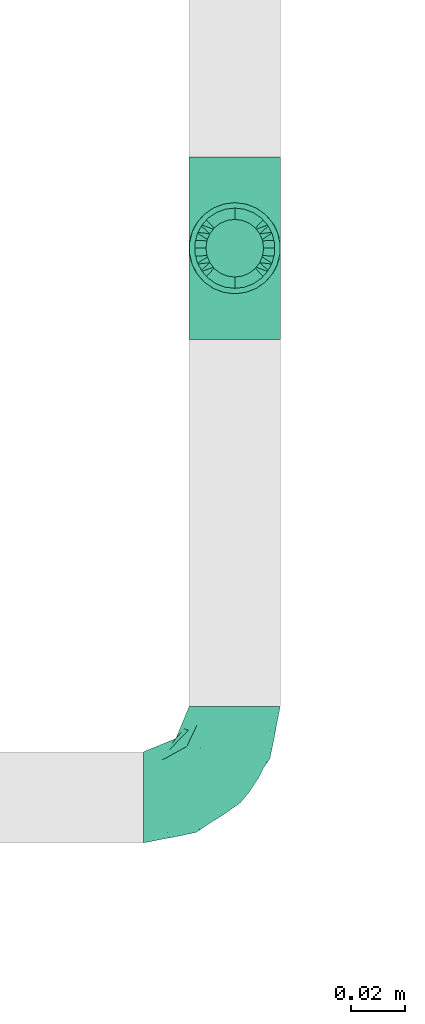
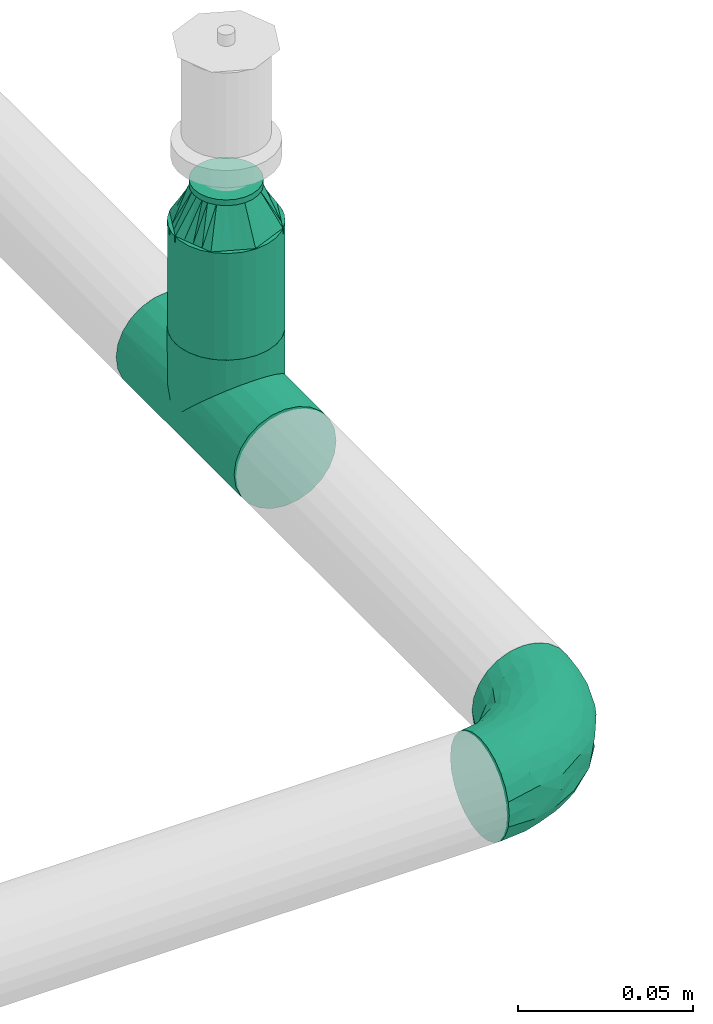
# One storey, part 12 of 31: 3 flow fittings, 1 flow segment.
"""IFC2X3 building model written with IfcOpenShell, lengths in millimetres."""

from ifc_helpers import new_model, entity, si_unit, converted_unit, derived_unit, direction, frame, origin_with_axes, origin_2d_with_axis, place, context, subcontext, project, spatial, hollow_circle, extrude, open_shell, surface_model, source, transform, mapped, type_object, element, save


model = new_model("IFC2X3")

# Units and contexts
model_context = context("Model", 3, precision=0.01, world=frame((0.0, 4.29681676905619e-09, 0.0)), true_north=direction((4.01073788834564e-13, 1.0)))
plan_context = context("Plan", 3, precision=0.01, world=frame((0.0, 4.29681676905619e-09, 0.0)), true_north=direction((4.01073788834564e-13, 1.0)))
body_context = subcontext(model_context, "Body", "Model", "MODEL_VIEW")
ifc_project = project(units=[converted_unit("PLANEANGLEUNIT", "DEGREE", entity("IfcPositiveLengthMeasure", 0.0174532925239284), si_unit("PLANEANGLEUNIT", "RADIAN"), dimensions=[0, 0, 0, 0, 0, 0, 0]), si_unit("AREAUNIT", "SQUARE_METRE"), si_unit("LENGTHUNIT", "METRE", prefix="MILLI"), si_unit("MASSUNIT", "GRAM", prefix="KILO"), si_unit("POWERUNIT", "WATT"), si_unit("PRESSUREUNIT", "PASCAL", prefix="KILO"), si_unit("FORCEUNIT", "NEWTON", prefix="KILO"), si_unit("ELECTRICVOLTAGEUNIT", "VOLT"), si_unit("ELECTRICCURRENTUNIT", "AMPERE"), si_unit("THERMODYNAMICTEMPERATUREUNIT", "DEGREE_CELSIUS"), si_unit("TIMEUNIT", "SECOND"), si_unit("VOLUMEUNIT", "CUBIC_METRE"), derived_unit("LINEARVELOCITYUNIT", [(si_unit("LENGTHUNIT", "METRE"), 1), (si_unit("TIMEUNIT", "SECOND"), -1)]), derived_unit("VOLUMETRICFLOWRATEUNIT", [(si_unit("VOLUMEUNIT", "CUBIC_METRE"), 1), (si_unit("TIMEUNIT", "SECOND"), -1)]), derived_unit("THERMALTRANSMITTANCEUNIT", [(si_unit("POWERUNIT", "WATT"), 1), (si_unit("THERMODYNAMICTEMPERATUREUNIT", "KELVIN"), -1), (si_unit("AREAUNIT", "SQUARE_METRE"), -1)]), derived_unit("SOUNDPRESSUREUNIT", [(si_unit("PRESSUREUNIT", "PASCAL"), 1)])], contexts=[model_context, plan_context])

# Site, building, storey
site_placement = place(None, frame((0.0, -4.29681676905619e-09, 0.0), z_axis=(0.0, 0.0, 1.0), x_axis=(1.0, 0.0, 0.0)))
site = spatial("IfcSite", under=ifc_project, at=site_placement, CompositionType="ELEMENT")
building_placement = place(site_placement, frame((0.0, 4.29681676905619e-09, 0.0), z_axis=(0.0, 0.0, 1.0), x_axis=(1.0, 0.0, 0.0)))
building = spatial("IfcBuilding", under=site, at=building_placement, Name="mc-building", CompositionType="ELEMENT")
storey_placement = place(building_placement, frame((0.0, 0.0, 200300.0), z_axis=(0.0, 0.0, 1.0), x_axis=(1.0, 0.0, 0.0)))
storey = spatial("IfcBuildingStorey", under=building, at=storey_placement, Name="Nivå C", CompositionType="ELEMENT", Elevation=200300.0)

# Flow fittings
pipe_fitting_type_1 = type_object("IfcPipeFittingType", Name="magi_pipe_fe_tee_centric_90_NOR", PredefinedType="JUNCTION")
shared_shape_1 = source(origin_with_axes(), body_context, "Body", "SurfaceModel", [
    surface_model("IfcShellBasedSurfaceModel", [(-33.8, 4.37404, -16.32415), (-33.8, 0.0, -16.9), (-33.8, 16.32415, -4.37404), (-33.8, 8.45, -14.63583), (-33.8, 11.9501, -11.9501), (-33.8, 14.63583, -8.45), (-33.8, -16.9, 0.0), (-33.8, -11.9501, -11.9501), (-33.8, -14.63583, -8.45), (-33.8, -8.45, -14.63583), (-33.8, -4.37404, -16.32415), (-33.8, -16.32415, -4.37404), (-33.8, 14.63583, 8.45), (-33.8, 16.32415, 4.37404), (-33.8, -8.45, 14.63583), (-33.8, 8.45, 14.63583), (-33.8, 11.9501, 11.9501), (-33.8, 4.37404, 16.32415), (-33.8, 0.0, 16.9), (-33.8, -11.9501, 11.9501), (-33.8, -14.63583, 8.45), (-33.8, -16.32415, 4.37404), (-33.8, -4.37404, 16.32415), (-33.8, 16.9, 0.0), (33.8, 4.37404, -16.32415), (33.8, -16.9, 0.0), (33.8, 0.0, -16.9), (33.8, 14.63583, -8.45), (33.8, 8.45, -14.63583), (33.8, 16.32415, -4.37404), (33.8, 11.9501, -11.9501), (33.8, -16.32415, 4.37404), (33.8, -8.45, -14.63583), (33.8, -4.37404, -16.32415), (33.8, -11.9501, -11.9501), (33.8, -14.63583, -8.45), (33.8, -16.32415, -4.37404), (33.8, 16.32415, 4.37404), (33.8, 8.45, 14.63583), (33.8, 14.63583, 8.45), (33.8, 11.9501, 11.9501), (33.8, -8.45, 14.63583), (33.8, 4.37404, 16.32415), (33.8, -14.63583, 8.45), (33.8, -11.9501, 11.9501), (33.8, 0.0, 16.9), (33.8, -4.37404, 16.32415), (33.8, 16.9, 0.0), (16.28698, -16.28698, 4.51047), (16.9, -16.9, 0.0), (14.62704, -14.62704, 8.4652), (9.47213, -9.47213, 13.99602), (12.26343, -12.26343, 11.62834), (-16.9, -16.9, 0.0), (-16.28698, -16.28698, 4.51047), (-14.62704, -14.62704, 8.4652), (-12.26343, -12.26343, 11.62834), (-9.47213, -9.47213, 13.99602), (-6.42894, -6.42894, 15.62942), (6.42894, -6.42894, 15.62942), (3.24522, -3.24522, 16.58549), (0.0, 0.0, 16.9), (-3.24522, -3.24522, 16.58549), (3.24522, -3.24522, -16.58549), (0.0, 0.0, -16.9), (-3.24522, -3.24522, -16.58549), (-6.42894, -6.42894, -15.62942), (6.42894, -6.42894, -15.62942), (9.47213, -9.47213, -13.99602), (12.26343, -12.26343, -11.62834), (14.62704, -14.62704, -8.4652), (16.28698, -16.28698, -4.51047), (-9.47213, -9.47213, -13.99602), (-12.26343, -12.26343, -11.62834), (-16.28698, -16.28698, -4.51047), (-14.62704, -14.62704, -8.4652), (4.37404, -25.35, -16.32415), (-16.9, -25.35, 0.0), (0.0, -25.35, -16.9), (14.63583, -25.35, -8.45), (8.45, -25.35, -14.63583), (16.32415, -25.35, -4.37404), (11.9501, -25.35, -11.9501), (-11.9501, -25.35, -11.9501), (-8.45, -25.35, -14.63583), (-4.37404, -25.35, -16.32415), (-14.63583, -25.35, -8.45), (-16.32415, -25.35, -4.37404), (16.9, -25.35, 0.0), (8.45, -25.35, 14.63583), (16.32415, -25.35, 4.37404), (14.63583, -25.35, 8.45), (-8.45, -25.35, 14.63583), (11.9501, -25.35, 11.9501), (4.37404, -25.35, 16.32415), (-16.32415, -25.35, 4.37404), (-11.9501, -25.35, 11.9501), (-14.63583, -25.35, 8.45), (0.0, -25.35, 16.9), (-4.37404, -25.35, 16.32415)], [open_shell([[[0, 1, 2]], [[3, 0, 4]], [[0, 2, 5]], [[4, 0, 5]], [[6, 2, 1]], [[7, 8, 9]], [[1, 10, 9]], [[11, 6, 8]], [[1, 9, 8]], [[1, 8, 6]], [[6, 12, 2]], [[12, 13, 2]], [[14, 12, 6]], [[12, 14, 15]], [[16, 12, 15]], [[17, 15, 18]], [[19, 14, 20]], [[21, 20, 14]], [[22, 18, 14]], [[14, 6, 21]], [[14, 18, 15]], [[23, 2, 13]], [[24, 25, 26]], [[27, 24, 28]], [[27, 29, 24]], [[27, 28, 30]], [[31, 25, 24]], [[26, 32, 33]], [[26, 34, 32]], [[35, 25, 36]], [[35, 34, 26]], [[25, 35, 26]], [[24, 29, 31]], [[29, 37, 38]], [[38, 37, 39]], [[38, 31, 29]], [[38, 39, 40]], [[41, 38, 42]], [[43, 41, 44]], [[41, 43, 31]], [[41, 45, 46]], [[41, 31, 38]], [[42, 45, 41]], [[29, 47, 37]], [[31, 43, 48]], [[25, 31, 49]], [[49, 31, 48]], [[43, 50, 48]], [[44, 41, 51]], [[50, 43, 52]], [[51, 52, 44]], [[52, 43, 44]], [[53, 54, 21]], [[53, 21, 6]], [[21, 54, 20]], [[54, 55, 20]], [[56, 57, 19]], [[19, 20, 56]], [[19, 57, 14]], [[56, 20, 55]], [[14, 57, 58]], [[51, 41, 59]], [[60, 45, 61]], [[59, 46, 60]], [[46, 59, 41]], [[60, 46, 45]], [[61, 45, 42]], [[39, 37, 13]], [[16, 38, 40]], [[12, 40, 39]], [[42, 38, 15]], [[23, 37, 47]], [[62, 61, 18]], [[62, 22, 58]], [[22, 62, 18]], [[58, 22, 14]], [[61, 17, 18]], [[42, 17, 61]], [[15, 17, 42]], [[15, 38, 16]], [[12, 16, 40]], [[13, 12, 39]], [[37, 23, 13]], [[5, 27, 30]], [[23, 47, 29]], [[30, 28, 3]], [[27, 2, 29]], [[26, 33, 63]], [[26, 64, 24]], [[64, 26, 63]], [[28, 24, 0]], [[64, 0, 24]], [[4, 30, 3]], [[2, 27, 5]], [[5, 30, 4]], [[2, 23, 29]], [[65, 66, 10]], [[1, 0, 64]], [[1, 65, 10]], [[66, 9, 10]], [[0, 3, 28]], [[1, 64, 65]], [[63, 33, 67]], [[32, 34, 68]], [[69, 68, 34]], [[35, 70, 69]], [[69, 34, 35]], [[32, 68, 67]], [[36, 25, 49]], [[36, 71, 35]], [[71, 36, 49]], [[35, 71, 70]], [[72, 9, 66]], [[72, 7, 9]], [[7, 72, 73]], [[7, 73, 8]], [[74, 53, 11]], [[75, 74, 8]], [[74, 11, 8]], [[11, 53, 6]], [[75, 8, 73]], [[32, 67, 33]], [[76, 77, 78]], [[79, 76, 80]], [[79, 81, 76]], [[79, 80, 82]], [[77, 76, 81]], [[78, 83, 84]], [[84, 85, 78]], [[86, 77, 87]], [[83, 78, 86]], [[77, 86, 78]], [[81, 88, 77]], [[89, 88, 90]], [[89, 90, 91]], [[92, 77, 89]], [[89, 91, 93]], [[92, 89, 94]], [[95, 96, 97]], [[96, 95, 92]], [[92, 98, 99]], [[95, 77, 92]], [[94, 98, 92]], [[89, 77, 88]], [[77, 95, 53]], [[54, 53, 95]], [[97, 96, 56]], [[96, 92, 57]], [[95, 97, 54]], [[58, 92, 99]], [[55, 54, 97]], [[56, 55, 97]], [[58, 57, 92]], [[98, 61, 62]], [[58, 99, 62]], [[56, 96, 57]], [[62, 99, 98]], [[94, 60, 98]], [[89, 59, 94]], [[91, 90, 48]], [[52, 93, 91]], [[93, 51, 89]], [[49, 90, 88]], [[59, 60, 94]], [[51, 59, 89]], [[49, 48, 90]], [[50, 52, 91]], [[48, 50, 91]], [[51, 93, 52]], [[98, 60, 61]], [[88, 81, 49]], [[71, 49, 81]], [[79, 82, 69]], [[82, 80, 68]], [[81, 79, 71]], [[67, 80, 76]], [[70, 71, 79]], [[69, 70, 79]], [[67, 68, 80]], [[78, 64, 63]], [[67, 76, 63]], [[69, 82, 68]], [[63, 76, 78]], [[85, 65, 78]], [[84, 66, 85]], [[86, 87, 74]], [[86, 73, 83]], [[72, 84, 83]], [[53, 87, 77]], [[66, 65, 85]], [[72, 66, 84]], [[53, 74, 87]], [[75, 73, 86]], [[74, 75, 86]], [[72, 83, 73]], [[78, 65, 64]]])]),
])
flow_fitting_1_placement = place(storey_placement, frame((606102.03234, 400928.19532, 2900.0), z_axis=(-1.0, 0.0, 0.0), x_axis=(0.0, 1.0, 0.0)))
element("IfcFlowFitting", 1, at=flow_fitting_1_placement, inside=storey, type_object=pipe_fitting_type_1, Name="magi_pipe_fe_tee_centric_90_NOR", context=body_context, shape_type="MappedRepresentation", body=[
    mapped(shared_shape_1, transform((0.0, 0.0, 0.0), scale=1.0)),
])
pipe_fitting_type_2 = type_object("IfcPipeFittingType", Name="magi_pipe_fe_reducer_centric_short_NOR", PredefinedType="TRANSITION")
shared_shape_2 = source(origin_with_axes(), body_context, "Body", "SurfaceModel", [
    surface_model("IfcShellBasedSurfaceModel", [(14.4, 5.35, -9.26647), (14.4, 0.0, -10.7), (14.4, 2.76936, -10.33541), (14.4, 10.33541, -2.76936), (14.4, 7.56604, -7.56604), (14.4, -10.33541, -2.76936), (14.4, 9.26647, -5.35), (14.4, 0.0, 10.7), (14.4, -5.35, -9.26647), (14.4, -2.76936, -10.33541), (14.4, -7.56604, -7.56604), (14.4, -9.26647, -5.35), (14.4, 10.7, 0.0), (14.4, 10.33541, 2.76936), (14.4, 9.26647, 5.35), (14.4, 7.56604, 7.56604), (14.4, 2.76936, 10.33541), (14.4, 5.35, 9.26647), (14.4, -10.33541, 2.76936), (14.4, -7.56604, 7.56604), (14.4, -9.26647, 5.35), (14.4, -10.7, 0.0), (14.4, -2.76936, 10.33541), (14.4, -5.35, 9.26647), (12.4, 2.76936, 10.33541), (12.4, -10.33541, -2.76936), (12.4, 0.0, 10.7), (12.4, 5.35, 9.26647), (12.4, 7.56604, 7.56604), (12.4, 9.26647, 5.35), (12.4, 10.33541, 2.76936), (12.4, -10.33541, 2.76936), (12.4, -2.76936, 10.33541), (12.4, -7.56604, 7.56604), (12.4, -5.35, 9.26647), (12.4, -9.26647, 5.35), (12.4, -10.7, 0.0), (12.4, 10.33541, -2.76936), (12.4, 5.35, -9.26647), (12.4, 9.26647, -5.35), (12.4, 7.56604, -7.56604), (12.4, 2.76936, -10.33541), (12.4, -9.26647, -5.35), (12.4, -5.35, -9.26647), (12.4, -7.56604, -7.56604), (12.4, 0.0, -10.7), (12.4, -2.76936, -10.33541), (12.4, 10.7, 0.0), (-2.0, 11.9501, 11.9501), (-2.0, 0.0, 16.9), (-2.0, 4.37404, 16.32415), (-2.0, 8.45, 14.63583), (-2.0, 14.63583, 8.45), (-2.0, 16.32415, 4.37404), (-2.0, -16.32415, 4.37404), (-2.0, -8.45, 14.63583), (-2.0, -14.63583, 8.45), (-2.0, -11.9501, 11.9501), (-2.0, -4.37404, 16.32415), (-2.0, -16.32415, -4.37404), (-2.0, -16.9, 0.0), (-2.0, -8.45, -14.63583), (-2.0, 16.32415, -4.37404), (-2.0, 11.9501, -11.9501), (-2.0, 14.63583, -8.45), (-2.0, 8.45, -14.63583), (-2.0, 4.37404, -16.32415), (-2.0, 0.0, -16.9), (-2.0, -11.9501, -11.9501), (-2.0, -14.63583, -8.45), (-2.0, -4.37404, -16.32415), (-2.0, 16.9, 0.0), (0.0, 4.37404, -16.32415), (0.0, 8.45, -14.63583), (0.0, 11.9501, -11.9501), (0.0, 0.0, -16.9), (0.0, 16.32415, -4.37404), (0.0, 16.32415, 4.37404), (0.0, 14.63583, -8.45), (0.0, -8.45, -14.63583), (0.0, -4.37404, -16.32415), (0.0, -11.9501, -11.9501), (0.0, -16.32415, -4.37404), (0.0, -14.63583, -8.45), (0.0, -16.32415, 4.37404), (0.0, 16.9, 0.0), (0.0, 14.63583, 8.45), (0.0, 11.9501, 11.9501), (0.0, 4.37404, 16.32415), (0.0, 8.45, 14.63583), (0.0, 0.0, 16.9), (0.0, -14.63583, 8.45), (0.0, -16.9, 0.0), (0.0, -8.45, 14.63583), (0.0, -11.9501, 11.9501), (0.0, -4.37404, 16.32415), (12.4, 9.3625, -2.31662), (0.0, 14.42505, -5.97505), (0.0, 15.66253, -2.98753), (12.4, -6.6875, -6.94985), (0.0, -13.18758, -8.96258), (0.0, 2.98753, -15.66253), (12.4, 0.0, -9.26647), (12.4, 6.6875, -6.94985), (0.0, 8.96258, -13.18758), (12.4, -9.3625, -2.31662), (0.0, -15.66253, -2.98753), (0.0, -14.42505, -5.97505), (0.0, 5.97505, -14.42505), (0.0, -2.98753, -15.66253), (0.0, -8.96258, -13.18758), (0.0, 13.18758, -8.96258), (12.4, 8.025, -4.63324), (12.4, -2.675, -9.26647), (12.4, 2.675, -9.26647), (0.0, -5.97505, -14.42505), (12.4, -8.025, -4.63324), (12.4, -9.3625, 2.31662), (0.0, -14.42505, 5.97505), (0.0, -15.66253, 2.98753), (12.4, 6.6875, 6.94985), (0.0, 13.18758, 8.96258), (0.0, -2.98753, 15.66253), (12.4, 0.0, 9.26647), (12.4, -6.6875, 6.94985), (0.0, -8.96258, 13.18758), (12.4, 9.3625, 2.31662), (0.0, 15.66253, 2.98753), (0.0, 14.42505, 5.97505), (0.0, -5.97505, 14.42505), (0.0, 2.98753, 15.66253), (0.0, 8.96258, 13.18758), (0.0, -13.18758, 8.96258), (12.4, -8.025, 4.63324), (12.4, 2.675, 9.26647), (12.4, -2.675, 9.26647), (0.0, 5.97505, 14.42505), (12.4, 8.025, 4.63324)], [open_shell([[[0, 1, 2]], [[3, 0, 4]], [[5, 0, 3]], [[3, 4, 6]], [[7, 5, 3]], [[1, 8, 9]], [[1, 0, 8]], [[10, 5, 11]], [[5, 10, 8]], [[0, 5, 8]], [[3, 12, 13]], [[13, 14, 15]], [[13, 15, 16]], [[7, 3, 16]], [[16, 15, 17]], [[7, 18, 5]], [[18, 19, 20]], [[21, 5, 18]], [[19, 22, 23]], [[22, 19, 18]], [[7, 22, 18]], [[13, 16, 3]], [[24, 25, 26]], [[27, 25, 24]], [[28, 29, 30]], [[28, 25, 27]], [[31, 26, 25]], [[32, 33, 34]], [[33, 32, 31]], [[33, 31, 35]], [[32, 26, 31]], [[31, 25, 36]], [[30, 37, 28]], [[25, 28, 37]], [[38, 37, 39]], [[37, 38, 25]], [[38, 39, 40]], [[41, 25, 38]], [[42, 43, 44]], [[43, 42, 25]], [[43, 45, 46]], [[43, 25, 41]], [[41, 45, 43]], [[37, 30, 47]], [[25, 5, 36]], [[42, 11, 25]], [[8, 44, 43]], [[42, 44, 10]], [[9, 43, 46]], [[25, 11, 5]], [[5, 21, 36]], [[9, 8, 43]], [[10, 44, 8]], [[10, 11, 42]], [[1, 9, 46]], [[46, 45, 1]], [[41, 2, 45]], [[38, 0, 41]], [[6, 40, 39]], [[38, 40, 4]], [[3, 39, 37]], [[38, 4, 0]], [[0, 2, 41]], [[12, 3, 37]], [[6, 39, 3]], [[6, 4, 40]], [[47, 12, 37]], [[45, 2, 1]], [[30, 13, 47]], [[29, 14, 30]], [[17, 28, 27]], [[29, 28, 15]], [[16, 27, 24]], [[30, 14, 13]], [[13, 12, 47]], [[16, 17, 27]], [[15, 28, 17]], [[15, 14, 29]], [[7, 16, 24]], [[24, 26, 7]], [[32, 22, 26]], [[34, 23, 32]], [[20, 33, 35]], [[34, 33, 19]], [[18, 35, 31]], [[34, 19, 23]], [[23, 22, 32]], [[21, 18, 31]], [[20, 35, 18]], [[20, 19, 33]], [[36, 21, 31]], [[26, 22, 7]], [[48, 49, 50]], [[48, 50, 51]], [[48, 52, 53]], [[48, 53, 49]], [[49, 53, 54]], [[55, 56, 57]], [[55, 58, 49]], [[56, 55, 49]], [[49, 54, 56]], [[54, 59, 60]], [[54, 53, 61]], [[53, 62, 63]], [[63, 62, 64]], [[63, 65, 66]], [[61, 53, 63]], [[67, 63, 66]], [[59, 68, 69]], [[68, 59, 61]], [[61, 67, 70]], [[59, 54, 61]], [[63, 67, 61]], [[53, 71, 62]], [[72, 73, 74]], [[75, 72, 74]], [[74, 76, 77]], [[76, 74, 78]], [[74, 77, 79]], [[75, 79, 80]], [[75, 74, 79]], [[81, 82, 83]], [[82, 81, 79]], [[79, 84, 82]], [[77, 76, 85]], [[77, 86, 87]], [[77, 87, 88]], [[88, 84, 79]], [[88, 87, 89]], [[84, 88, 90]], [[90, 91, 84]], [[92, 82, 84]], [[91, 93, 94]], [[91, 90, 93]], [[93, 90, 95]], [[79, 77, 88]], [[59, 82, 60]], [[69, 83, 59]], [[79, 68, 61]], [[69, 68, 81]], [[80, 61, 70]], [[59, 83, 82]], [[82, 92, 60]], [[80, 79, 61]], [[81, 68, 79]], [[81, 83, 69]], [[75, 80, 70]], [[70, 67, 75]], [[66, 72, 67]], [[65, 73, 66]], [[78, 63, 64]], [[65, 63, 74]], [[76, 64, 62]], [[65, 74, 73]], [[73, 72, 66]], [[85, 76, 62]], [[78, 64, 76]], [[78, 74, 63]], [[71, 85, 62]], [[67, 72, 75]], [[53, 77, 71]], [[52, 86, 53]], [[89, 48, 51]], [[52, 48, 87]], [[88, 51, 50]], [[53, 86, 77]], [[77, 85, 71]], [[88, 89, 51]], [[87, 48, 89]], [[87, 86, 52]], [[90, 88, 50]], [[50, 49, 90]], [[58, 95, 49]], [[55, 93, 58]], [[91, 57, 56]], [[55, 57, 94]], [[84, 56, 54]], [[55, 94, 93]], [[93, 95, 58]], [[92, 84, 54]], [[91, 56, 84]], [[91, 94, 57]], [[60, 92, 54]], [[49, 95, 90]], [[27, 34, 47]], [[47, 34, 43]], [[43, 38, 47]], [[43, 34, 36]], [[90, 87, 94]], [[92, 94, 87]], [[87, 74, 92]], [[75, 92, 74]], [[81, 92, 75]], [[74, 87, 85]], [[96, 97, 98]], [[81, 99, 100]], [[101, 102, 75]], [[98, 85, 47]], [[74, 103, 104]], [[104, 103, 38]], [[105, 106, 107]], [[38, 108, 104]], [[102, 109, 75]], [[110, 99, 81]], [[47, 96, 98]], [[103, 111, 112]], [[109, 102, 113]], [[36, 92, 106]], [[102, 101, 114]], [[110, 115, 43]], [[96, 112, 97]], [[107, 116, 105]], [[36, 106, 105]], [[113, 115, 109]], [[43, 115, 113]], [[116, 107, 100]], [[108, 38, 114]], [[111, 103, 74]], [[111, 97, 112]], [[99, 110, 43]], [[116, 100, 99]], [[101, 108, 114]], [[117, 118, 119]], [[87, 120, 121]], [[122, 123, 90]], [[119, 92, 36]], [[94, 124, 125]], [[125, 124, 34]], [[126, 127, 128]], [[34, 129, 125]], [[123, 130, 90]], [[131, 120, 87]], [[36, 117, 119]], [[124, 132, 133]], [[130, 123, 134]], [[47, 85, 127]], [[123, 122, 135]], [[131, 136, 27]], [[117, 133, 118]], [[128, 137, 126]], [[47, 127, 126]], [[134, 136, 130]], [[27, 136, 134]], [[137, 128, 121]], [[129, 34, 135]], [[132, 124, 94]], [[132, 118, 133]], [[120, 131, 27]], [[137, 121, 120]], [[122, 129, 135]]])]),
])
flow_fitting_2_placement = place(storey_placement, frame((606102.03234, 400928.19532, 2962.64799999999), z_axis=(-1.0, 0.0, 0.0), x_axis=(0.0, 0.0, 1.0)))
element("IfcFlowFitting", 2, at=flow_fitting_2_placement, inside=storey, type_object=pipe_fitting_type_2, Name="magi_pipe_fe_reducer_centric_short_NOR", context=body_context, shape_type="MappedRepresentation", body=[
    mapped(shared_shape_2, transform((0.0, 0.0, 0.0), scale=1.0)),
])
pipe_fitting_type_3 = type_object("IfcPipeFittingType", Name="magi_pipe_fe_elbow_short_001", PredefinedType="BEND")
shared_shape_3 = source(origin_with_axes(), body_context, "Body", "SurfaceModel", [
    surface_model("IfcShellBasedSurfaceModel", [(-33.8, 8.45, -14.63583), (-33.8, 4.37404, -16.32415), (-33.8, 11.9501, -11.9501), (-33.8, -11.9501, -11.9501), (-33.8, -14.63583, -8.45), (-33.8, -8.45, -14.63583), (-33.8, 0.0, -16.9), (-33.8, -4.37404, -16.32415), (-33.8, -4.37404, 16.32415), (-33.8, 0.0, 16.9), (-33.8, -8.45, 14.63583), (-33.8, 16.32415, -4.37404), (-33.8, 14.63583, -8.45), (-33.8, -16.32415, -4.37404), (-33.8, -16.9, 0.0), (-33.8, -16.32415, 4.37404), (-33.8, 11.9501, 11.9501), (-33.8, 14.63583, 8.45), (-33.8, 16.32415, 4.37404), (-33.8, 4.37404, 16.32415), (-33.8, 8.45, 14.63583), (-33.8, -14.63583, 8.45), (-33.8, -11.9501, 11.9501), (-33.8, 16.9, 0.0), (-11.9501, 33.8, -11.9501), (0.0, 33.8, -16.9), (-4.37404, 33.8, -16.32415), (-8.45, 33.8, -14.63583), (-14.63583, 33.8, -8.45), (-16.32415, 33.8, -4.37404), (14.63583, 33.8, -8.45), (8.45, 33.8, 14.63583), (16.32415, 33.8, -4.37404), (8.45, 33.8, -14.63583), (11.9501, 33.8, -11.9501), (4.37404, 33.8, -16.32415), (16.32415, 33.8, 4.37404), (16.9, 33.8, 0.0), (-11.9501, 33.8, 11.9501), (-16.32415, 33.8, 4.37404), (-14.63583, 33.8, 8.45), (-8.45, 33.8, 14.63583), (-4.37404, 33.8, 16.32415), (11.9501, 33.8, 11.9501), (14.63583, 33.8, 8.45), (0.0, 33.8, 16.9), (4.37404, 33.8, 16.32415), (-16.9, 33.8, 0.0), (-24.79389, -13.12945, 9.48721), (-22.19287, -9.75018, 12.59315), (-24.09897, -14.97035, 0.0), (-14.93934, -10.76256, 8.5297), (-22.46095, -14.75051, 5.27077), (14.75051, 22.46094, 5.27077), (11.9251, 13.23888, 4.33236), (13.04069, 14.39795, 0.0), (7.71387, 13.68847, 11.55891), (9.75018, 22.19287, 12.59315), (4.10169, 13.0571, 14.04018), (-24.84007, -6.39063, 15.2048), (-25.81779, -2.23879, 16.61097), (-23.66549, 2.59054, 16.87119), (-26.50418, 14.06512, 11.08152), (-24.21253, 17.66365, 7.72657), (-29.58514, 15.86957, 7.00283), (-6.17382, -7.5455, 0.0), (-13.23888, -11.9251, 4.33236), (-14.39795, -13.04069, 0.0), (-17.81434, 18.87373, 11.97104), (-6.30846, 29.15138, 15.82987), (-2.31622, 25.28002, 16.85849), (-29.23923, 10.23435, 13.77053), (-1.45439, -2.85688, 7.61475), (-0.28326, 0.34872, 10.09509), (-5.74484, -4.04709, 10.4122), (-4.41137, 11.31918, 16.59407), (-8.39727, 3.10034, 15.7812), (-1.72649, 9.1306, 15.53089), (-17.39909, 24.75344, 7.64977), (-26.19233, 20.0512, 0.0), (-28.14518, 17.29657, 4.25857), (-26.05147, 6.6281, 15.96447), (-5.87354, 16.61944, 16.86968), (-12.51807, 12.51807, 16.48937), (-10.06312, 7.38516, 16.81295), (-3.01882, 3.01882, 13.81718), (-13.0571, -4.10169, 14.04018), (-16.82553, -0.15166, 16.38038), (10.76256, 14.93934, 8.5297), (13.12945, 24.79389, 9.48721), (6.39063, 24.84007, 15.2048), (2.23879, 25.81779, 16.61097), (-13.68847, -7.71387, 11.55891), (14.97035, 24.09897, 0.0), (-7.30894, 22.89991, 16.09489), (-10.67958, 26.17414, 14.008), (-12.78295, 18.26924, 15.06066), (-13.88562, 22.45231, 12.93244), (-18.04944, 15.16501, 14.04434), (-23.11658, 20.08178, 4.02986), (-21.84989, 21.84989, 0.0), (-18.55817, 25.48277, 3.93065), (-13.95142, 26.94732, 11.03289), (-18.57098, 7.23906, 16.59756), (-16.58335, 4.14122, 16.89279), (-17.96666, 11.46709, 15.63151), (-9.84453, 17.54304, 16.18938), (0.15166, 16.82553, 16.38038), (-23.27207, 11.47201, 14.23154), (3.84842, 5.86994, 10.70473), (-8.0212, -7.54413, 7.93275), (1.00345, -2.19508, 4.57414), (5.13203, 3.01004, 5.90201), (5.24161, 1.7543, 2.53265), (8.70457, 7.04947, 3.99182), (-20.0512, 26.19233, 0.0), (8.4852, 8.76699, 7.09296), (-4.55488, -6.72064, 4.90681), (2.05031, -2.05031, 0.0), (7.5455, 6.17382, 0.0), (-26.75399, 2.1369, -16.845), (-14.61995, 24.73803, -11.27736), (-28.45274, -13.45335, -9.81895), (-26.00469, 6.63555, -15.96645), (-23.06726, 20.04573, -4.26202), (-13.80647, -4.26506, -14.17873), (-14.67501, -0.21081, -16.07388), (-6.7902, -0.2828, -13.8478), (-24.53586, 11.08096, -14.13417), (-26.72048, 14.00837, -11.05776), (10.0967, 24.44989, -12.75976), (5.83237, 21.40218, -15.03047), (6.66249, 28.54238, -15.38093), (-20.38182, 15.48705, -12.74596), (12.53268, 21.23441, -9.15363), (12.54494, 15.67504, -5.54878), (9.7522, 12.89279, -8.66343), (-15.65186, 19.64213, -13.01327), (-12.03528, 20.66498, -14.67665), (-15.61907, 15.61906, -14.83879), (-25.56551, -15.26206, 0.0), (-24.65452, -15.12934, -5.50955), (13.45335, 28.45274, -9.81895), (15.12934, 24.65452, -5.50955), (-7.35442, -8.31014, -5.65563), (-15.67504, -12.54494, -5.54878), (-24.44989, -10.0967, -12.75976), (0.16522, 0.41303, -9.71728), (-5.70658, -5.33066, -8.89288), (-5.13869, -2.37198, -11.53565), (-21.23441, -12.53268, -9.15363), (0.71146, 7.93863, -14.09382), (0.21081, 14.67501, -16.07388), (3.49291, 14.42772, -14.76381), (-24.89911, -2.13088, -16.591), (-28.54238, -6.66249, -15.38093), (-18.44386, -7.71663, -13.26957), (2.13088, 24.89911, -16.591), (-28.64342, 17.44413, -2.89318), (1.70017, -1.28722, -5.09504), (-16.57067, 26.81947, -7.36596), (-17.69055, 27.4263, -3.76405), (-12.89279, -9.7522, -8.66343), (-5.96611, 5.96611, -15.95814), (-20.53709, 20.09345, -8.28985), (-2.1369, 26.75399, -16.845), (-6.89872, 24.58781, -16.02578), (-10.60739, 26.53157, -13.98044), (-21.40218, -5.83237, -15.03047), (2.93192, 5.89627, -11.55917), (6.89393, 12.61842, -11.82233), (5.58056, 5.95325, -8.79455), (-3.99512, 18.61798, -16.89635), (8.31014, 7.35442, -5.65563), (-9.1383, 9.86148, -16.89041), (-9.99983, 16.02119, -16.39699), (-16.68576, 9.78031, -16.34199), (-27.01915, 16.61158, -7.12979), (15.26206, 25.56551, 0.0), (-18.61798, 3.99512, -16.89635), (-19.37495, 27.82495, 0.0), (-12.61842, -6.89393, -11.82233), (-18.84705, 19.14018, -10.96545)], [open_shell([[[0, 1, 2]], [[3, 4, 5]], [[6, 7, 5]], [[8, 9, 10]], [[1, 6, 2]], [[11, 12, 2]], [[4, 2, 6]], [[2, 13, 10]], [[5, 4, 6]], [[2, 4, 13]], [[14, 15, 13]], [[11, 2, 16]], [[11, 17, 18]], [[11, 16, 17]], [[19, 20, 16]], [[16, 2, 10]], [[19, 16, 10]], [[21, 22, 15]], [[22, 13, 15]], [[22, 10, 13]], [[10, 9, 19]], [[11, 18, 23]], [[24, 25, 26]], [[24, 26, 27]], [[24, 28, 29]], [[25, 24, 30]], [[31, 32, 24]], [[33, 30, 34]], [[33, 35, 25]], [[25, 30, 33]], [[32, 30, 24]], [[32, 36, 37]], [[38, 24, 29]], [[39, 40, 29]], [[40, 38, 29]], [[38, 41, 42]], [[38, 31, 24]], [[31, 38, 42]], [[36, 43, 44]], [[36, 32, 43]], [[31, 45, 46]], [[32, 31, 43]], [[42, 45, 31]], [[39, 29, 47]], [[22, 48, 49]], [[15, 14, 50]], [[51, 48, 52]], [[53, 54, 55]], [[48, 22, 21]], [[15, 52, 21]], [[56, 57, 58]], [[49, 10, 22]], [[49, 59, 10]], [[9, 60, 61]], [[62, 63, 64]], [[65, 66, 67]], [[57, 43, 31]], [[62, 68, 63]], [[42, 69, 70]], [[20, 71, 16]], [[8, 60, 9]], [[72, 73, 74]], [[75, 76, 77]], [[16, 62, 17]], [[40, 39, 78]], [[79, 23, 80]], [[64, 18, 17]], [[9, 61, 19]], [[19, 81, 20]], [[82, 83, 84]], [[74, 85, 86]], [[59, 86, 87]], [[88, 89, 57]], [[90, 31, 46]], [[44, 53, 36]], [[46, 45, 91]], [[54, 53, 88]], [[44, 89, 53]], [[92, 86, 49]], [[89, 44, 43]], [[10, 59, 8]], [[53, 55, 93]], [[93, 36, 53]], [[66, 52, 67]], [[94, 82, 70]], [[95, 96, 94]], [[97, 98, 96]], [[79, 99, 100]], [[41, 38, 95]], [[101, 100, 99]], [[68, 78, 63]], [[42, 41, 69]], [[23, 18, 80]], [[95, 94, 69]], [[78, 101, 99]], [[38, 102, 95]], [[70, 45, 42]], [[97, 95, 102]], [[15, 50, 52]], [[90, 57, 31]], [[57, 90, 58]], [[81, 19, 61]], [[103, 104, 84]], [[105, 81, 103]], [[38, 40, 102]], [[106, 96, 83]], [[94, 106, 82]], [[91, 70, 107]], [[71, 62, 16]], [[62, 108, 98]], [[86, 59, 49]], [[67, 52, 50]], [[60, 59, 87]], [[92, 49, 51]], [[86, 85, 76]], [[91, 90, 46]], [[37, 36, 93]], [[107, 77, 58]], [[107, 58, 90]], [[58, 85, 109]], [[110, 74, 92]], [[72, 74, 110]], [[66, 51, 52]], [[72, 111, 112]], [[113, 114, 112]], [[56, 88, 57]], [[52, 48, 21]], [[49, 48, 51]], [[57, 89, 43]], [[53, 89, 88]], [[103, 81, 61]], [[71, 81, 108]], [[18, 64, 80]], [[63, 78, 99]], [[47, 115, 101]], [[101, 115, 100]], [[40, 78, 102]], [[68, 102, 78]], [[97, 96, 95]], [[105, 98, 108]], [[103, 84, 83]], [[107, 70, 82]], [[76, 84, 87]], [[82, 84, 75]], [[70, 91, 45]], [[90, 91, 107]], [[59, 60, 8]], [[61, 60, 87]], [[73, 85, 74]], [[109, 112, 116]], [[103, 61, 104]], [[105, 103, 83]], [[96, 105, 83]], [[81, 105, 108]], [[96, 98, 105]], [[62, 98, 68]], [[61, 87, 104]], [[87, 84, 104]], [[86, 76, 87]], [[77, 76, 85]], [[58, 77, 85]], [[75, 77, 107]], [[82, 75, 107]], [[76, 75, 84]], [[81, 71, 20]], [[62, 71, 108]], [[95, 69, 41]], [[70, 69, 94]], [[62, 64, 17]], [[80, 63, 99]], [[63, 80, 64]], [[80, 99, 79]], [[66, 65, 117]], [[110, 66, 117]], [[112, 114, 116]], [[118, 117, 65]], [[110, 92, 51]], [[112, 111, 113]], [[119, 55, 54]], [[74, 86, 92]], [[58, 109, 56]], [[116, 56, 109]], [[66, 110, 51]], [[72, 110, 117]], [[111, 72, 117]], [[73, 112, 109]], [[117, 118, 111]], [[113, 111, 118]], [[118, 119, 113]], [[114, 119, 54]], [[119, 114, 113]], [[116, 54, 88]], [[54, 116, 114]], [[116, 88, 56]], [[112, 73, 72]], [[85, 73, 109]], [[78, 39, 101]], [[47, 101, 39]], [[102, 68, 97]], [[97, 68, 98]], [[82, 106, 83]], [[94, 96, 106]], [[1, 120, 6]], [[28, 24, 121]], [[3, 122, 4]], [[0, 123, 1]], [[100, 124, 79]], [[125, 126, 127]], [[128, 2, 129]], [[130, 131, 132]], [[128, 129, 133]], [[134, 135, 136]], [[137, 138, 139]], [[128, 0, 2]], [[67, 140, 141]], [[134, 142, 143]], [[141, 13, 4]], [[144, 65, 145]], [[146, 3, 5]], [[147, 148, 149]], [[145, 141, 150]], [[151, 152, 153]], [[154, 7, 6]], [[5, 155, 146]], [[150, 146, 156]], [[155, 5, 7]], [[143, 135, 134]], [[35, 157, 25]], [[23, 79, 158]], [[148, 159, 144]], [[160, 161, 29]], [[145, 162, 144]], [[163, 152, 151]], [[29, 28, 160]], [[121, 164, 160]], [[33, 34, 130]], [[25, 165, 26]], [[26, 165, 166]], [[142, 34, 30]], [[24, 27, 167]], [[124, 161, 164]], [[157, 35, 132]], [[155, 154, 168]], [[123, 0, 128]], [[169, 170, 171]], [[172, 157, 152]], [[26, 166, 27]], [[132, 35, 33]], [[142, 130, 34]], [[168, 154, 126]], [[136, 135, 173]], [[133, 137, 139]], [[2, 12, 129]], [[170, 131, 130]], [[30, 32, 143]], [[172, 174, 175]], [[176, 123, 128]], [[158, 177, 11]], [[135, 55, 119]], [[167, 27, 166]], [[175, 166, 172]], [[137, 167, 138]], [[122, 141, 4]], [[140, 14, 13]], [[32, 37, 178]], [[170, 130, 134]], [[152, 157, 131]], [[165, 157, 172]], [[153, 170, 151]], [[152, 163, 174]], [[168, 125, 156]], [[122, 146, 150]], [[120, 154, 6]], [[179, 174, 126]], [[179, 126, 154]], [[126, 163, 127]], [[162, 145, 150]], [[140, 13, 141]], [[32, 178, 143]], [[55, 143, 178]], [[177, 129, 12]], [[128, 133, 139]], [[176, 128, 139]], [[120, 123, 179]], [[121, 160, 28]], [[161, 100, 180]], [[166, 175, 138]], [[121, 24, 167]], [[161, 47, 29]], [[79, 124, 158]], [[124, 164, 177]], [[161, 124, 100]], [[136, 171, 170]], [[127, 163, 151]], [[147, 171, 159]], [[148, 144, 162]], [[127, 151, 169]], [[127, 181, 125]], [[129, 177, 164]], [[12, 11, 177]], [[159, 65, 144]], [[67, 141, 145]], [[143, 55, 135]], [[135, 119, 173]], [[123, 120, 1]], [[154, 120, 179]], [[157, 165, 25]], [[166, 165, 172]], [[172, 152, 174]], [[176, 139, 175]], [[126, 174, 163]], [[176, 174, 179]], [[174, 176, 175]], [[123, 176, 179]], [[150, 181, 162]], [[127, 149, 181]], [[181, 148, 162]], [[159, 148, 147]], [[171, 136, 173]], [[170, 134, 136]], [[159, 171, 173]], [[171, 147, 169]], [[169, 147, 149]], [[151, 170, 169]], [[164, 182, 129]], [[182, 121, 137]], [[181, 149, 148]], [[169, 149, 127]], [[182, 137, 133]], [[167, 137, 121]], [[166, 138, 167]], [[175, 139, 138]], [[129, 182, 133]], [[121, 182, 164]], [[161, 160, 164]], [[47, 161, 180]], [[177, 158, 124]], [[23, 158, 11]], [[130, 132, 33]], [[157, 132, 131]], [[143, 142, 30]], [[130, 142, 134]], [[154, 155, 7]], [[146, 155, 168]], [[146, 122, 3]], [[141, 122, 150]], [[152, 131, 153]], [[159, 119, 118]], [[67, 145, 65]], [[170, 153, 131]], [[119, 159, 173]], [[159, 118, 65]], [[156, 125, 181]], [[126, 125, 168]], [[150, 156, 181]], [[168, 156, 146]]])]),
])
flow_fitting_3_placement = place(storey_placement, frame((606102.03234, 400724.39532, 2900.0), z_axis=(0.0, 0.0, 1.0), x_axis=(1.0, 0.0, 0.0)))
element("IfcFlowFitting", 3, at=flow_fitting_3_placement, inside=storey, type_object=pipe_fitting_type_3, Name="magi_pipe_fe_elbow_short_001", context=body_context, shape_type="MappedRepresentation", body=[
    mapped(shared_shape_3, transform((0.0, 0.0, 0.0), scale=1.0)),
])

# Flow segment
pipe_segment_type = type_object("IfcPipeSegmentType", Name="Stålrør normaltykke", PredefinedType="RIGIDSEGMENT")
shared_shape_4 = source(origin_with_axes(), body_context, "Body", "SweptSolid", [
    extrude(hollow_circle(Radius=16.9, WallThickness=2.0, at=origin_2d_with_axis()), frame((0.0, 0.0, 0.0), z_axis=(1.0, 0.0, 0.0), x_axis=(0.0, 1.0, 0.0)), (0.0, 0.0, 1.0), 37.3),
])
flow_segment_placement = place(storey_placement, frame((606102.03234, 400928.19532, 2925.35000000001), z_axis=(-1.0, 0.0, 0.0), x_axis=(0.0, 0.0, 1.0)))
element("IfcFlowSegment", 4, at=flow_segment_placement, inside=storey, type_object=pipe_segment_type, Name="Stålrør normaltykke", context=body_context, shape_type="MappedRepresentation", body=[
    mapped(shared_shape_4, transform((0.0, 0.0, 0.0), scale=1.0)),
])

save(model, "model.ifc")
